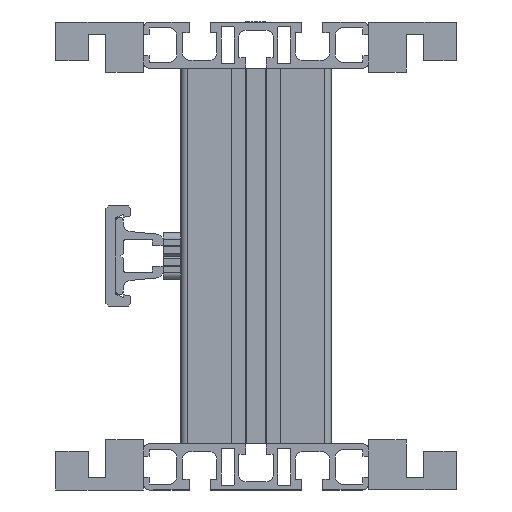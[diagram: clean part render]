
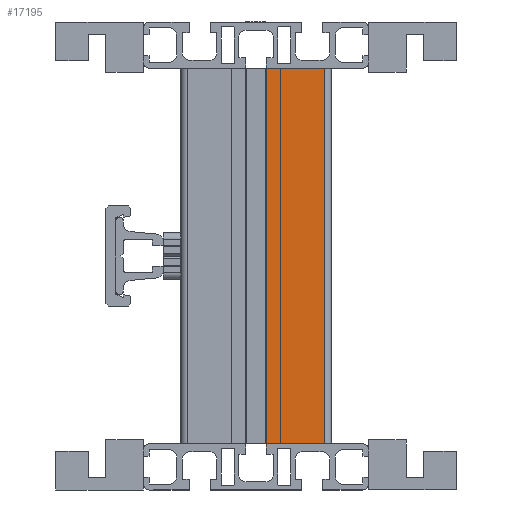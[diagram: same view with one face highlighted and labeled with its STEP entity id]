
A CAD part, left-side view. The second image highlights one B-rep face of the part: STEP entity #17195.
In plain terms, the highlighted planar face has unit normal (-1, 0, 0).
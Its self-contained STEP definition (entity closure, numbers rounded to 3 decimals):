
#35 = EDGE_CURVE ( 'NONE', #1524, #23789, #21420, .T. ) ;
#1524 = VERTEX_POINT ( 'NONE', #2420 ) ;
#2420 = CARTESIAN_POINT ( 'NONE',  ( -255., -72.5, 75. ) ) ;
#3402 = DIRECTION ( 'NONE',  ( 0., 0., 1. ) ) ;
#3472 = CARTESIAN_POINT ( 'NONE',  ( -255., -49.15, 75. ) ) ;
#3786 = VERTEX_POINT ( 'NONE', #24719 ) ;
#3789 = EDGE_LOOP ( 'NONE', ( #25858, #6297, #19836, #5340 ) ) ;
#4196 = LINE ( 'NONE', #18606, #23270 ) ;
#4610 = DIRECTION ( 'NONE',  ( 0., 1., 0. ) ) ;
#5340 = ORIENTED_EDGE ( 'NONE', *, *, #18558, .T. ) ;
#6297 = ORIENTED_EDGE ( 'NONE', *, *, #26652, .F. ) ;
#9508 = LINE ( 'NONE', #11923, #17232 ) ;
#10235 = DIRECTION ( 'NONE',  ( 1., 0., 0. ) ) ;
#10246 = DIRECTION ( 'NONE',  ( 0., 0., 1. ) ) ;
#10640 = VECTOR ( 'NONE', #4610, 1000. ) ;
#11923 = CARTESIAN_POINT ( 'NONE',  ( -255., -72.5, -75. ) ) ;
#12940 = CARTESIAN_POINT ( 'NONE',  ( -255., -72.5, -75. ) ) ;
#13193 = DIRECTION ( 'NONE',  ( 0., 1., 0. ) ) ;
#13227 = EDGE_CURVE ( 'NONE', #17100, #3786, #20388, .T. ) ;
#13891 = FACE_OUTER_BOUND ( 'NONE', #3789, .T. ) ;
#14744 = PLANE ( 'NONE',  #22945 ) ;
#15460 = CARTESIAN_POINT ( 'NONE',  ( -255., -72.5, 75. ) ) ;
#16520 = DIRECTION ( 'NONE',  ( 0., 0., -1. ) ) ;
#17100 = VERTEX_POINT ( 'NONE', #22693 ) ;
#17195 = ADVANCED_FACE ( 'NONE', ( #13891 ), #14744, .F. ) ;
#17232 = VECTOR ( 'NONE', #3402, 1000. ) ;
#18558 = EDGE_CURVE ( 'NONE', #17100, #1524, #9508, .T. ) ;
#18606 = CARTESIAN_POINT ( 'NONE',  ( -255., -49.15, -75. ) ) ;
#18777 = CARTESIAN_POINT ( 'NONE',  ( -255., -72.5, -75. ) ) ;
#19836 = ORIENTED_EDGE ( 'NONE', *, *, #13227, .F. ) ;
#20388 = LINE ( 'NONE', #12940, #10640 ) ;
#21420 = LINE ( 'NONE', #15460, #24094 ) ;
#22693 = CARTESIAN_POINT ( 'NONE',  ( -255., -72.5, -75. ) ) ;
#22945 = AXIS2_PLACEMENT_3D ( 'NONE', #18777, #10235, #16520 ) ;
#23270 = VECTOR ( 'NONE', #10246, 1000. ) ;
#23789 = VERTEX_POINT ( 'NONE', #3472 ) ;
#24094 = VECTOR ( 'NONE', #13193, 1000. ) ;
#24719 = CARTESIAN_POINT ( 'NONE',  ( -255., -49.15, -75. ) ) ;
#25858 = ORIENTED_EDGE ( 'NONE', *, *, #35, .T. ) ;
#26652 = EDGE_CURVE ( 'NONE', #3786, #23789, #4196, .T. ) ;
